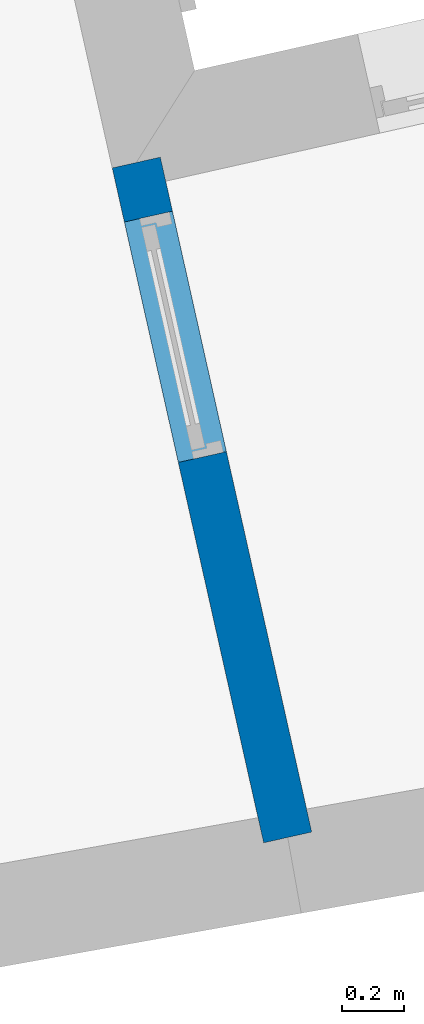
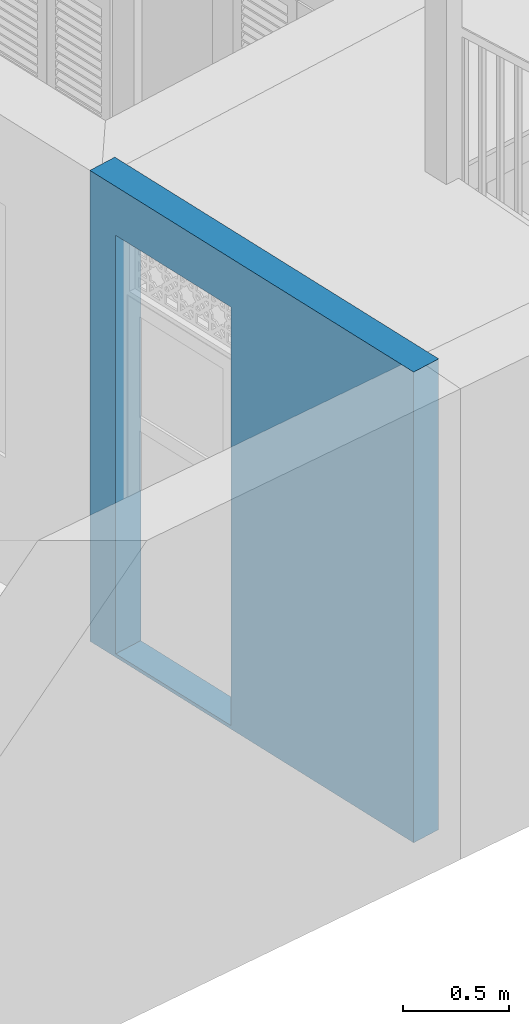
# One storey, part 2 of 13: 1 wall, 1 opening.
"""IFC4 building model written with IfcOpenShell, lengths in metres."""

from ifc_helpers import new_model, si_unit, frame, origin_with_axes, place, context, subcontext, project, spatial, polyline, outline, extrude, material, layer, layer_set, layer_usage, type_object, element, save


model = new_model("IFC4")

# Units and contexts
model_context = context("Model", 3, world=origin_with_axes())
body_context = subcontext(model_context, "Body", "Model", "MODEL_VIEW")
ifc_project = project(units=[si_unit("PLANEANGLEUNIT", "RADIAN"), si_unit("MASSUNIT", "GRAM", prefix="KILO"), si_unit("FORCEUNIT", "NEWTON", prefix="KILO"), si_unit("LENGTHUNIT", "METRE"), si_unit("AREAUNIT", "SQUARE_METRE"), si_unit("VOLUMEUNIT", "CUBIC_METRE")], contexts=[model_context, model_context])

# Site, building, storey
site_placement = place(None, origin_with_axes())
site = spatial("IfcSite", under=ifc_project, at=site_placement, Name="Site plot-10", CompositionType="ELEMENT")
building_placement = place(None, origin_with_axes())
building = spatial("IfcBuilding", under=site, at=building_placement, Name="Building plot-10", CompositionType="ELEMENT")
storey_placement = place(None, origin_with_axes())
storey = spatial("IfcBuildingStorey", under=building, at=storey_placement, Name="plot-10 0", CompositionType="ELEMENT", Elevation=0.0)

# Wall, opening
ifc_material = material(Name="Masonry")
ifc_layer = layer(ifc_material, 0.16, ventilated=False)
ifc_layer_set = layer_set([ifc_layer], Name="interior_0.08_0.08")
ifc_layer_usage = layer_usage(ifc_layer_set, "AXIS2", "POSITIVE", -0.08)
wall_type = type_object("IfcWallType", Name="interior_0.08_0.08", PredefinedType="SOLIDWALL", material=ifc_layer_set)
wall_placement = place(storey_placement, frame((-19.6342477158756, 8.65796789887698, 0.0), z_axis=(0.0, 0.0, 1.0), x_axis=(-0.218925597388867, 0.975741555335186, 0.0)))
wall = element("IfcWall", 1, at=wall_placement, inside=storey, type_object=wall_type, material=ifc_layer_usage, Name="interior", context=body_context, shape_type="SweptSolid", body=[
    extrude(outline(polyline([(-8.2998912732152e-16, 0.0799999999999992), (8.22022733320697e-16, -0.0799999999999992), (2.24593760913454, -0.0799999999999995), (2.24593760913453, 0.0799999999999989), (-8.2998912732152e-16, 0.0799999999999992)])), origin_with_axes(), (0.0, 0.0, 1.0), 2.7),
])
opening_placement = place(wall_placement, frame((1.26593760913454, 0.0, 0.02)))
element("IfcOpeningElement", 2, at=opening_placement, cuts=wall, Name="My Opening", ObjectType="Opening", context=body_context, shape_type="SweptSolid", body=[
    extrude(outline(polyline([(0.0, -0.100000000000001), (0.799999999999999, -0.100000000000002), (0.799999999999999, 1.1), (-4.44089209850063e-16, 1.1), (0.0, -0.100000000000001)])), origin_with_axes(), (0.0, 0.0, 1.0), 2.4),
])

save(model, "model.ifc")
